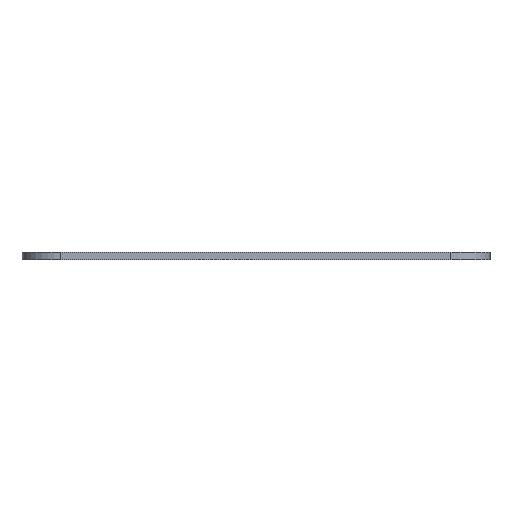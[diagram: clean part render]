
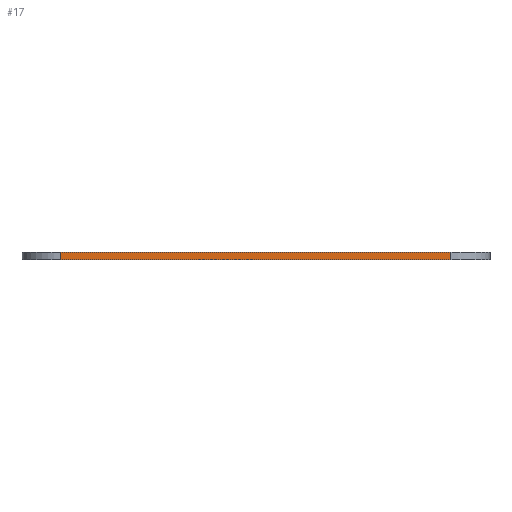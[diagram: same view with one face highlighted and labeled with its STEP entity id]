
A CAD part, left-side view. The second image highlights one B-rep face of the part: STEP entity #17.
In plain terms, the highlighted planar face has unit normal (-1, 0, 0).
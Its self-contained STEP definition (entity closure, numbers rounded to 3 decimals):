
#17 = ADVANCED_FACE('',(#18),#32,.F.);
#18 = FACE_BOUND('',#19,.F.);
#19 = EDGE_LOOP('',(#20,#55,#83,#111));
#20 = ORIENTED_EDGE('',*,*,#21,.F.);
#21 = EDGE_CURVE('',#22,#24,#26,.T.);
#22 = VERTEX_POINT('',#23);
#23 = CARTESIAN_POINT('',(0.,16.,27.25));
#24 = VERTEX_POINT('',#25);
#25 = CARTESIAN_POINT('',(0.,176.,27.25));
#26 = SURFACE_CURVE('',#27,(#31,#43),.PCURVE_S1.);
#27 = LINE('',#28,#29);
#28 = CARTESIAN_POINT('',(0.,0.,27.25));
#29 = VECTOR('',#30,1.);
#30 = DIRECTION('',(0.,1.,0.));
#31 = PCURVE('',#32,#37);
#32 = PLANE('',#33);
#33 = AXIS2_PLACEMENT_3D('',#34,#35,#36);
#34 = CARTESIAN_POINT('',(0.,0.,24.25));
#35 = DIRECTION('',(1.,0.,0.));
#36 = DIRECTION('',(0.,0.,1.));
#37 = DEFINITIONAL_REPRESENTATION('',(#38),#42);
#38 = LINE('',#39,#40);
#39 = CARTESIAN_POINT('',(3.,0.));
#40 = VECTOR('',#41,1.);
#41 = DIRECTION('',(0.,-1.));
#42 = ( GEOMETRIC_REPRESENTATION_CONTEXT(2) 
PARAMETRIC_REPRESENTATION_CONTEXT() REPRESENTATION_CONTEXT('2D SPACE',''
  ) );
#43 = PCURVE('',#44,#49);
#44 = PLANE('',#45);
#45 = AXIS2_PLACEMENT_3D('',#46,#47,#48);
#46 = CARTESIAN_POINT('',(0.,0.,27.25));
#47 = DIRECTION('',(0.,0.,1.));
#48 = DIRECTION('',(1.,0.,0.));
#49 = DEFINITIONAL_REPRESENTATION('',(#50),#54);
#50 = LINE('',#51,#52);
#51 = CARTESIAN_POINT('',(0.,0.));
#52 = VECTOR('',#53,1.);
#53 = DIRECTION('',(0.,1.));
#54 = ( GEOMETRIC_REPRESENTATION_CONTEXT(2) 
PARAMETRIC_REPRESENTATION_CONTEXT() REPRESENTATION_CONTEXT('2D SPACE',''
  ) );
#55 = ORIENTED_EDGE('',*,*,#56,.F.);
#56 = EDGE_CURVE('',#57,#22,#59,.T.);
#57 = VERTEX_POINT('',#58);
#58 = CARTESIAN_POINT('',(0.,16.,24.25));
#59 = SURFACE_CURVE('',#60,(#64,#71),.PCURVE_S1.);
#60 = LINE('',#61,#62);
#61 = CARTESIAN_POINT('',(0.,16.,24.25));
#62 = VECTOR('',#63,1.);
#63 = DIRECTION('',(0.,0.,1.));
#64 = PCURVE('',#32,#65);
#65 = DEFINITIONAL_REPRESENTATION('',(#66),#70);
#66 = LINE('',#67,#68);
#67 = CARTESIAN_POINT('',(0.,-16.));
#68 = VECTOR('',#69,1.);
#69 = DIRECTION('',(1.,0.));
#70 = ( GEOMETRIC_REPRESENTATION_CONTEXT(2) 
PARAMETRIC_REPRESENTATION_CONTEXT() REPRESENTATION_CONTEXT('2D SPACE',''
  ) );
#71 = PCURVE('',#72,#77);
#72 = CYLINDRICAL_SURFACE('',#73,16.);
#73 = AXIS2_PLACEMENT_3D('',#74,#75,#76);
#74 = CARTESIAN_POINT('',(16.,16.,24.25));
#75 = DIRECTION('',(0.,0.,1.));
#76 = DIRECTION('',(-1.,-0.,0.));
#77 = DEFINITIONAL_REPRESENTATION('',(#78),#82);
#78 = LINE('',#79,#80);
#79 = CARTESIAN_POINT('',(0.,0.));
#80 = VECTOR('',#81,1.);
#81 = DIRECTION('',(0.,1.));
#82 = ( GEOMETRIC_REPRESENTATION_CONTEXT(2) 
PARAMETRIC_REPRESENTATION_CONTEXT() REPRESENTATION_CONTEXT('2D SPACE',''
  ) );
#83 = ORIENTED_EDGE('',*,*,#84,.T.);
#84 = EDGE_CURVE('',#57,#85,#87,.T.);
#85 = VERTEX_POINT('',#86);
#86 = CARTESIAN_POINT('',(0.,176.,24.25));
#87 = SURFACE_CURVE('',#88,(#92,#99),.PCURVE_S1.);
#88 = LINE('',#89,#90);
#89 = CARTESIAN_POINT('',(0.,0.,24.25));
#90 = VECTOR('',#91,1.);
#91 = DIRECTION('',(0.,1.,0.));
#92 = PCURVE('',#32,#93);
#93 = DEFINITIONAL_REPRESENTATION('',(#94),#98);
#94 = LINE('',#95,#96);
#95 = CARTESIAN_POINT('',(0.,0.));
#96 = VECTOR('',#97,1.);
#97 = DIRECTION('',(0.,-1.));
#98 = ( GEOMETRIC_REPRESENTATION_CONTEXT(2) 
PARAMETRIC_REPRESENTATION_CONTEXT() REPRESENTATION_CONTEXT('2D SPACE',''
  ) );
#99 = PCURVE('',#100,#105);
#100 = PLANE('',#101);
#101 = AXIS2_PLACEMENT_3D('',#102,#103,#104);
#102 = CARTESIAN_POINT('',(0.,0.,24.25));
#103 = DIRECTION('',(0.,0.,1.));
#104 = DIRECTION('',(1.,0.,0.));
#105 = DEFINITIONAL_REPRESENTATION('',(#106),#110);
#106 = LINE('',#107,#108);
#107 = CARTESIAN_POINT('',(0.,0.));
#108 = VECTOR('',#109,1.);
#109 = DIRECTION('',(0.,1.));
#110 = ( GEOMETRIC_REPRESENTATION_CONTEXT(2) 
PARAMETRIC_REPRESENTATION_CONTEXT() REPRESENTATION_CONTEXT('2D SPACE',''
  ) );
#111 = ORIENTED_EDGE('',*,*,#112,.T.);
#112 = EDGE_CURVE('',#85,#24,#113,.T.);
#113 = SURFACE_CURVE('',#114,(#118,#125),.PCURVE_S1.);
#114 = LINE('',#115,#116);
#115 = CARTESIAN_POINT('',(0.,176.,24.25));
#116 = VECTOR('',#117,1.);
#117 = DIRECTION('',(0.,0.,1.));
#118 = PCURVE('',#32,#119);
#119 = DEFINITIONAL_REPRESENTATION('',(#120),#124);
#120 = LINE('',#121,#122);
#121 = CARTESIAN_POINT('',(0.,-176.));
#122 = VECTOR('',#123,1.);
#123 = DIRECTION('',(1.,0.));
#124 = ( GEOMETRIC_REPRESENTATION_CONTEXT(2) 
PARAMETRIC_REPRESENTATION_CONTEXT() REPRESENTATION_CONTEXT('2D SPACE',''
  ) );
#125 = PCURVE('',#126,#131);
#126 = CYLINDRICAL_SURFACE('',#127,16.);
#127 = AXIS2_PLACEMENT_3D('',#128,#129,#130);
#128 = CARTESIAN_POINT('',(16.,176.,24.25));
#129 = DIRECTION('',(0.,0.,1.));
#130 = DIRECTION('',(-1.,-0.,0.));
#131 = DEFINITIONAL_REPRESENTATION('',(#132),#136);
#132 = LINE('',#133,#134);
#133 = CARTESIAN_POINT('',(-0.,0.));
#134 = VECTOR('',#135,1.);
#135 = DIRECTION('',(-0.,1.));
#136 = ( GEOMETRIC_REPRESENTATION_CONTEXT(2) 
PARAMETRIC_REPRESENTATION_CONTEXT() REPRESENTATION_CONTEXT('2D SPACE',''
  ) );
